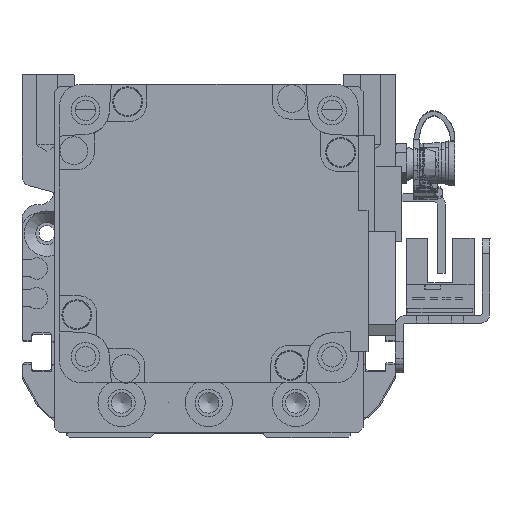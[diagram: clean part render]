
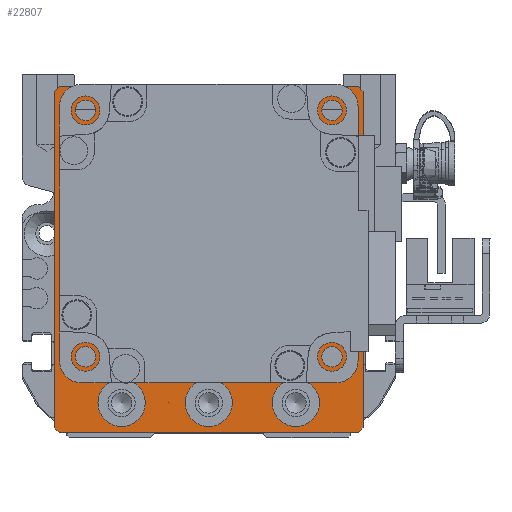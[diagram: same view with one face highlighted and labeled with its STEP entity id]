
A CAD part, left-side view. The second image highlights one B-rep face of the part: STEP entity #22807.
In plain terms, the highlighted planar face has unit normal (-1, 0, 0) as drawn and (0, 0, 1) by its records, which use the part's own axes.
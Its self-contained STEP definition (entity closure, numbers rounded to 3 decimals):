
#863=FACE_BOUND('',#4449,.T.);
#864=FACE_BOUND('',#4450,.T.);
#865=FACE_BOUND('',#4451,.T.);
#866=FACE_BOUND('',#4452,.T.);
#867=FACE_BOUND('',#4453,.T.);
#868=FACE_BOUND('',#4454,.T.);
#869=FACE_BOUND('',#4455,.T.);
#870=FACE_BOUND('',#4456,.T.);
#1400=PLANE('',#25379);
#2955=FACE_OUTER_BOUND('',#4448,.T.);
#4448=EDGE_LOOP('',(#19991,#19992,#19993,#19994,#19995,#19996,#19997,#19998));
#4449=EDGE_LOOP('',(#19999));
#4450=EDGE_LOOP('',(#20000));
#4451=EDGE_LOOP('',(#20001));
#4452=EDGE_LOOP('',(#20002));
#4453=EDGE_LOOP('',(#20003));
#4454=EDGE_LOOP('',(#20004));
#4455=EDGE_LOOP('',(#20005));
#4456=EDGE_LOOP('',(#20006));
#6340=LINE('',#38249,#8270);
#6343=LINE('',#38254,#8273);
#6345=LINE('',#38258,#8275);
#6347=LINE('',#38262,#8277);
#6349=LINE('',#38267,#8279);
#6351=LINE('',#38270,#8281);
#6352=LINE('',#38272,#8282);
#6353=LINE('',#38273,#8283);
#8270=VECTOR('',#31005,10.);
#8273=VECTOR('',#31010,10.);
#8275=VECTOR('',#31014,10.);
#8277=VECTOR('',#31018,10.);
#8279=VECTOR('',#31022,10.);
#8281=VECTOR('',#31026,10.);
#8282=VECTOR('',#31027,10.);
#8283=VECTOR('',#31028,10.);
#9622=CIRCLE('',#25380,25.);
#9623=CIRCLE('',#25381,2.067);
#9624=CIRCLE('',#25382,2.067);
#9625=CIRCLE('',#25383,2.067);
#9626=CIRCLE('',#25384,2.067);
#9627=CIRCLE('',#25385,4.75);
#9628=CIRCLE('',#25386,4.75);
#9629=CIRCLE('',#25387,4.75);
#11494=VERTEX_POINT('',#38246);
#11495=VERTEX_POINT('',#38248);
#11496=VERTEX_POINT('',#38252);
#11497=VERTEX_POINT('',#38256);
#11498=VERTEX_POINT('',#38260);
#11499=VERTEX_POINT('',#38264);
#11500=VERTEX_POINT('',#38266);
#11501=VERTEX_POINT('',#38271);
#11502=VERTEX_POINT('',#38274);
#11503=VERTEX_POINT('',#38276);
#11504=VERTEX_POINT('',#38278);
#11505=VERTEX_POINT('',#38280);
#11506=VERTEX_POINT('',#38282);
#11507=VERTEX_POINT('',#38284);
#11508=VERTEX_POINT('',#38286);
#11509=VERTEX_POINT('',#38288);
#14422=EDGE_CURVE('',#11494,#11495,#6340,.T.);
#14425=EDGE_CURVE('',#11494,#11496,#6343,.T.);
#14427=EDGE_CURVE('',#11497,#11496,#6345,.T.);
#14429=EDGE_CURVE('',#11497,#11498,#6347,.T.);
#14431=EDGE_CURVE('',#11499,#11500,#6349,.T.);
#14433=EDGE_CURVE('',#11499,#11495,#6351,.T.);
#14434=EDGE_CURVE('',#11501,#11498,#6352,.T.);
#14435=EDGE_CURVE('',#11501,#11500,#6353,.T.);
#14436=EDGE_CURVE('',#11502,#11502,#9622,.T.);
#14437=EDGE_CURVE('',#11503,#11503,#9623,.T.);
#14438=EDGE_CURVE('',#11504,#11504,#9624,.T.);
#14439=EDGE_CURVE('',#11505,#11505,#9625,.T.);
#14440=EDGE_CURVE('',#11506,#11506,#9626,.T.);
#14441=EDGE_CURVE('',#11507,#11507,#9627,.T.);
#14442=EDGE_CURVE('',#11508,#11508,#9628,.T.);
#14443=EDGE_CURVE('',#11509,#11509,#9629,.T.);
#19991=ORIENTED_EDGE('',*,*,#14431,.F.);
#19992=ORIENTED_EDGE('',*,*,#14433,.T.);
#19993=ORIENTED_EDGE('',*,*,#14422,.F.);
#19994=ORIENTED_EDGE('',*,*,#14425,.T.);
#19995=ORIENTED_EDGE('',*,*,#14427,.F.);
#19996=ORIENTED_EDGE('',*,*,#14429,.T.);
#19997=ORIENTED_EDGE('',*,*,#14434,.F.);
#19998=ORIENTED_EDGE('',*,*,#14435,.T.);
#19999=ORIENTED_EDGE('',*,*,#14436,.T.);
#20000=ORIENTED_EDGE('',*,*,#14437,.T.);
#20001=ORIENTED_EDGE('',*,*,#14438,.T.);
#20002=ORIENTED_EDGE('',*,*,#14439,.T.);
#20003=ORIENTED_EDGE('',*,*,#14440,.T.);
#20004=ORIENTED_EDGE('',*,*,#14441,.T.);
#20005=ORIENTED_EDGE('',*,*,#14442,.T.);
#20006=ORIENTED_EDGE('',*,*,#14443,.T.);
#22807=ADVANCED_FACE('',(#2955,#863,#864,#865,#866,#867,#868,#869,#870),
#1400,.T.);
#25379=AXIS2_PLACEMENT_3D('',#38269,#31024,#31025);
#25380=AXIS2_PLACEMENT_3D('',#38275,#31029,#31030);
#25381=AXIS2_PLACEMENT_3D('',#38277,#31031,#31032);
#25382=AXIS2_PLACEMENT_3D('',#38279,#31033,#31034);
#25383=AXIS2_PLACEMENT_3D('',#38281,#31035,#31036);
#25384=AXIS2_PLACEMENT_3D('',#38283,#31037,#31038);
#25385=AXIS2_PLACEMENT_3D('',#38285,#31039,#31040);
#25386=AXIS2_PLACEMENT_3D('',#38287,#31041,#31042);
#25387=AXIS2_PLACEMENT_3D('',#38289,#31043,#31044);
#31005=DIRECTION('',(-0.707,-0.707,0.));
#31010=DIRECTION('',(0.,1.,0.));
#31014=DIRECTION('',(0.707,-0.707,0.));
#31018=DIRECTION('',(-1.,0.,0.));
#31022=DIRECTION('',(-0.707,0.707,0.));
#31024=DIRECTION('center_axis',(0.,0.,1.));
#31025=DIRECTION('ref_axis',(1.,0.,0.));
#31026=DIRECTION('',(1.,0.,0.));
#31027=DIRECTION('',(0.707,0.707,0.));
#31028=DIRECTION('',(0.,-1.,0.));
#31029=DIRECTION('center_axis',(0.,0.,-1.));
#31030=DIRECTION('ref_axis',(1.,0.,0.));
#31031=DIRECTION('center_axis',(0.,0.,-1.));
#31032=DIRECTION('ref_axis',(1.,0.,0.));
#31033=DIRECTION('center_axis',(0.,0.,-1.));
#31034=DIRECTION('ref_axis',(1.,0.,0.));
#31035=DIRECTION('center_axis',(0.,0.,-1.));
#31036=DIRECTION('ref_axis',(1.,0.,0.));
#31037=DIRECTION('center_axis',(0.,0.,-1.));
#31038=DIRECTION('ref_axis',(1.,0.,0.));
#31039=DIRECTION('center_axis',(0.,0.,-1.));
#31040=DIRECTION('ref_axis',(1.,0.,0.));
#31041=DIRECTION('center_axis',(0.,0.,-1.));
#31042=DIRECTION('ref_axis',(1.,0.,0.));
#31043=DIRECTION('center_axis',(0.,0.,-1.));
#31044=DIRECTION('ref_axis',(1.,0.,0.));
#38246=CARTESIAN_POINT('',(31.,-33.75,59.));
#38248=CARTESIAN_POINT('',(30.,-34.75,59.));
#38249=CARTESIAN_POINT('',(31.438,-33.313,59.));
#38252=CARTESIAN_POINT('',(31.,33.75,59.));
#38254=CARTESIAN_POINT('',(31.,-34.75,59.));
#38256=CARTESIAN_POINT('',(30.,34.75,59.));
#38258=CARTESIAN_POINT('',(31.438,33.313,59.));
#38260=CARTESIAN_POINT('',(-30.,34.75,59.));
#38262=CARTESIAN_POINT('',(31.,34.75,59.));
#38264=CARTESIAN_POINT('',(-30.,-34.75,59.));
#38266=CARTESIAN_POINT('',(-31.,-33.75,59.));
#38267=CARTESIAN_POINT('',(-31.438,-33.313,59.));
#38269=CARTESIAN_POINT('Origin',(0.,0.,
59.));
#38270=CARTESIAN_POINT('',(-31.,-34.75,59.));
#38271=CARTESIAN_POINT('',(-31.,33.75,59.));
#38272=CARTESIAN_POINT('',(-31.438,33.313,59.));
#38273=CARTESIAN_POINT('',(-31.,34.75,59.));
#38274=CARTESIAN_POINT('',(-25.,5.25,59.));
#38275=CARTESIAN_POINT('Origin',(0.,5.25,59.));
#38276=CARTESIAN_POINT('',(22.682,-19.499,59.));
#38277=CARTESIAN_POINT('Origin',(24.749,-19.499,59.));
#38278=CARTESIAN_POINT('',(22.682,29.999,59.));
#38279=CARTESIAN_POINT('Origin',(24.749,29.999,59.));
#38280=CARTESIAN_POINT('',(-26.816,29.999,59.));
#38281=CARTESIAN_POINT('Origin',(-24.749,29.999,59.));
#38282=CARTESIAN_POINT('',(-26.816,-19.499,59.));
#38283=CARTESIAN_POINT('Origin',(-24.749,-19.499,59.));
#38284=CARTESIAN_POINT('',(12.75,-28.75,59.));
#38285=CARTESIAN_POINT('Origin',(17.5,-28.75,59.));
#38286=CARTESIAN_POINT('',(-4.75,-28.75,59.));
#38287=CARTESIAN_POINT('Origin',(0.,-28.75,59.));
#38288=CARTESIAN_POINT('',(-22.25,-28.75,59.));
#38289=CARTESIAN_POINT('Origin',(-17.5,-28.75,59.));
